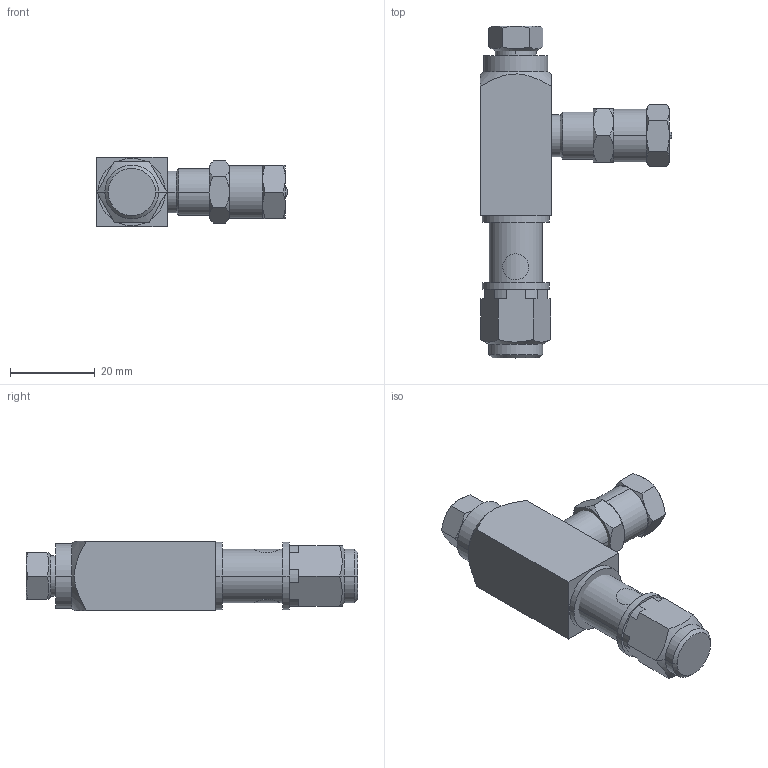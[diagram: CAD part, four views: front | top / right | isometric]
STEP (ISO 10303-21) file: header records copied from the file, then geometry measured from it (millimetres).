
FILE_DESCRIPTION((''),'2;1');
FILE_NAME('24E245-EN-M_PRT','2022-02-14T11:42:59',('qtmwp1'),(''),'CREO PARAMETRIC BY PTC INC, 2021072','CREO PARAMETRIC BY PTC INC, 2021072','');
FILE_SCHEMA(('CONFIG_CONTROL_DESIGN'));
Length unit declared in the file: inch
Products named in the file (1): 24E245-EN-M_PRT
Bounding box: 45.26 x 78.49 x 16.51 mm (x, y, z)
Surface area: 7783.1 mm2 (no closed solid volume)
Topology: 0 solids, 13 shells, 115 faces, 274 edges, 170 vertices
Faces by surface type: plane 45, cone 40, cylinder 28, bspline 2
Entity records: 3889 total; most frequent: CARTESIAN_POINT 1347, ORIENTED_EDGE 508, DIRECTION 502, EDGE_CURVE 274, AXIS2_PLACEMENT_3D 201, VERTEX_POINT 170, EDGE_LOOP 115, FACE_OUTER_BOUND 115
